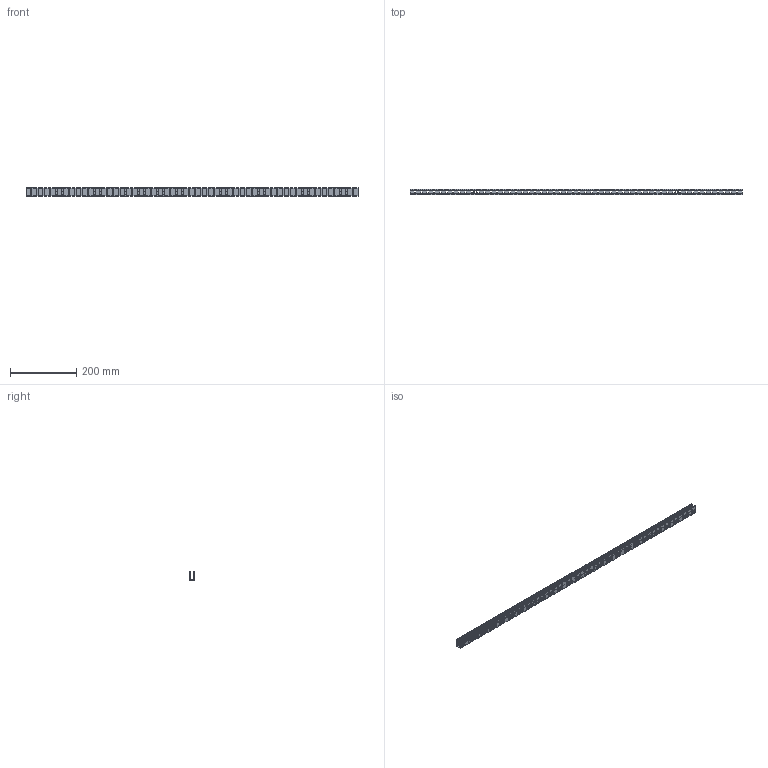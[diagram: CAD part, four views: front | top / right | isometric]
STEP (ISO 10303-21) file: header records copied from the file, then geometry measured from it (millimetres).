
FILE_DESCRIPTION(/* description */ (''),/* implementation_level */ '2;1');
FILE_NAME(/* name */ 'NF_1121+1128_CURVED_PROFILE_SIDE_BEND_L1000_R01.step',/* time_stamp */ '2026-07-24T14:31:15+02:00',/* author */ (''),/* organization */ (''),/* preprocessor_version */ 'ST-DEVELOPER v20.1',/* originating_system */ 'Autodesk Translation Framework v15.8.0.0',/* authorisation */ '');
FILE_SCHEMA (('AUTOMOTIVE_DESIGN { 1 0 10303 214 3 1 1 }'));
Products named in the file (1): 2026-07-16-10-35-51-248
Bounding box: 1000 x 16.99 x 24.7 mm (x, y, z)
Volume: 110123.4 mm3; surface area: 210466.9 mm2
Topology: 3 solids, 3 shells, 4763 faces, 14271 edges, 9514 vertices
Faces by surface type: plane 3050, cylinder 1650, bspline 63
Entity records: 161637 total; most frequent: CARTESIAN_POINT 30084, ORIENTED_EDGE 28542, DIRECTION 26995, EDGE_CURVE 14271, LINE 10741, VECTOR 10741, VERTEX_POINT 9514, AXIS2_PLACEMENT_3D 8127
